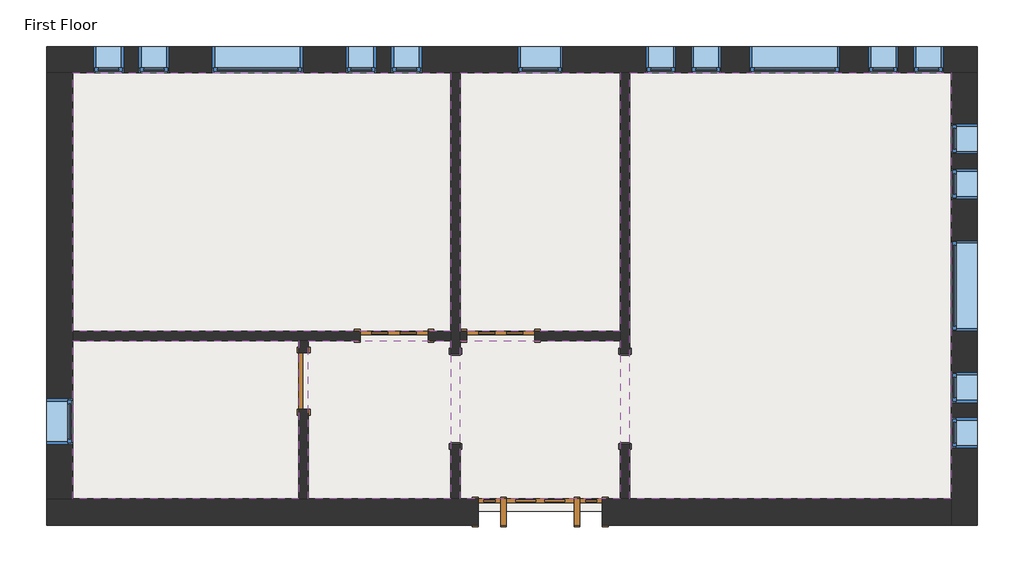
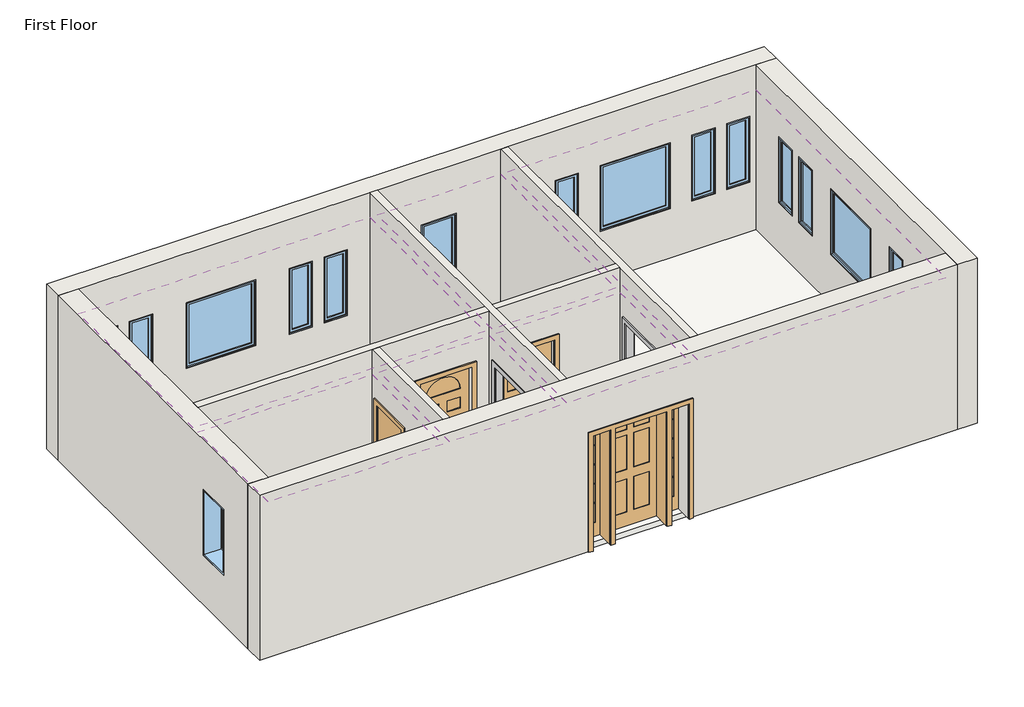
# One storey: 17 windows, 8 walls, 6 coverings, 4 doors, 2 proxies, 1 slab.
"""IFC4 building model written with IfcOpenShell, lengths in millimetres."""

from ifc_helpers import new_model, si_unit, frame, origin, place, context, project, spatial, polyline, outline, extrude, faceted_brep, transform, mapped, element, save
from components import proxy_f44482cc, door_829da954, door_2e3b4da2, door_4d6c7550, door_ffdb1193, window_da97879f, window_d61ef850, window_60baf983, window_6eb97611

model = new_model("IFC4")

# Units and contexts
model_context = context("Model", 3, world=origin())
ifc_project = project(units=[si_unit("LENGTHUNIT", "METRE", prefix="MILLI")], contexts=[model_context])

# Site, building, storey
site = spatial("IfcSite", under=ifc_project)
building = spatial("IfcBuilding", under=site)
storey = spatial("IfcBuildingStorey", under=building, Name="First Floor", Elevation=0.0)

# Proxies
placement = place(None, origin())
proxy_shape = proxy_f44482cc(model_context)
element("IfcBuildingElementProxy", 1, Name="Passage Opening-Cased : 48\" x 84\"", ObjectType="Passage Opening-Cased : 48\" x 84\"", at=placement, inside=storey, context=model_context, shape_type="MappedRepresentation", body=[
    mapped(proxy_shape, transform((3208.4428612, 1537.2944757, 0.0), x_axis=(0.0, 1.0, 0.0), y_axis=(-1.0, 0.0, 0.0), z_axis=(0.0, 0.0, 1.0))),
])
element("IfcBuildingElementProxy", 2, Name="Passage Opening-Cased : 48\" x 84\"", ObjectType="Passage Opening-Cased : 48\" x 84\"", at=placement, inside=storey, context=model_context, shape_type="MappedRepresentation", body=[
    mapped(proxy_shape, transform((922.4428612, 1537.2944757, 0.0), x_axis=(0.0, 1.0, 0.0), y_axis=(-1.0, 0.0, 0.0), z_axis=(0.0, 0.0, 1.0))),
])

# Coverings
element("IfcCovering", 3, ObjectType="GWB on Mtl. Stud", at=placement, inside=storey, context=model_context, shape_type="SweptSolid", body=[
    extrude(outline(polyline([(-4235.3446388, 5924.893319), (858.9428612, 5924.893319), (858.9428612, 2441.918319), (-4235.3446388, 2441.918319), (-4235.3446388, 5924.893319)])), frame((0.0, 0.0, 2590.8), z_axis=(0.0, 0.0, 1.0), x_axis=(1.0, 0.0, 0.0)), (0.0, 0.0, 1.0), 107.95),
])
element("IfcCovering", 4, ObjectType="GWB on Mtl. Stud", at=placement, inside=storey, context=model_context, shape_type="SweptSolid", body=[
    extrude(outline(polyline([(-1187.3446388, 2314.918319), (-1187.3446388, 181.318319), (-4235.3446388, 181.318319), (-4235.3446388, 2314.918319), (-1187.3446388, 2314.918319)])), frame((0.0, 0.0, 2590.8), z_axis=(0.0, 0.0, 1.0), x_axis=(1.0, 0.0, 0.0)), (0.0, 0.0, 1.0), 107.95),
])
element("IfcCovering", 5, ObjectType="GWB on Mtl. Stud", at=placement, inside=storey, context=model_context, shape_type="SweptSolid", body=[
    extrude(outline(polyline([(858.9428612, 181.318319), (-1060.3446388, 181.318319), (-1060.3446388, 2314.918319), (858.9428612, 2314.918319), (858.9428612, 181.318319)])), frame((0.0, 0.0, 2590.8), z_axis=(0.0, 0.0, 1.0), x_axis=(1.0, 0.0, 0.0)), (0.0, 0.0, 1.0), 107.95),
])
element("IfcCovering", 6, ObjectType="GWB on Mtl. Stud", at=placement, inside=storey, context=model_context, shape_type="SweptSolid", body=[
    extrude(outline(polyline([(3144.9428612, 181.318319), (985.9428612, 181.318319), (985.9428612, 2314.918319), (3144.9428612, 2314.918319), (3144.9428612, 181.318319)])), frame((0.0, 0.0, 2590.8), z_axis=(0.0, 0.0, 1.0), x_axis=(1.0, 0.0, 0.0)), (0.0, 0.0, 1.0), 107.95),
])
element("IfcCovering", 7, ObjectType="GWB on Mtl. Stud", at=placement, inside=storey, context=model_context, shape_type="SweptSolid", body=[
    extrude(outline(polyline([(985.9428612, 2441.918319), (985.9428612, 5924.893319), (3144.9428612, 5924.893319), (3144.9428612, 2441.918319), (985.9428612, 2441.918319)])), frame((0.0, 0.0, 2590.8), z_axis=(0.0, 0.0, 1.0), x_axis=(1.0, 0.0, 0.0)), (0.0, 0.0, 1.0), 107.95),
])
element("IfcCovering", 8, ObjectType="GWB on Mtl. Stud", at=placement, inside=storey, context=model_context, shape_type="SweptSolid", body=[
    extrude(outline(polyline([(3271.9428612, 181.318319), (3271.9428612, 5924.893319), (7604.2303612, 5924.893319), (7604.2303612, 181.318319), (3271.9428612, 181.318319)])), frame((0.0, 0.0, 2590.8), z_axis=(0.0, 0.0, 1.0), x_axis=(1.0, 0.0, 0.0)), (0.0, 0.0, 1.0), 107.95),
])

# Doors
door_shape = door_829da954(model_context)
element("IfcDoor", 9, ObjectType="Single-Decorative 2 : 36\" x 84\"", at=placement, inside=storey, context=model_context, shape_type="MappedRepresentation", body=[
    mapped(door_shape, transform((1532.0428612, 2378.418319, 0.0), x_axis=(-1.0, 0.0, 0.0), y_axis=(0.0, -1.0, 0.0), z_axis=(0.0, 0.0, 1.0))),
])
door_2_shape = door_2e3b4da2(model_context)
element("IfcDoor", 10, ObjectType="Single-Decorative 2 : 36\" x 84\"", at=placement, inside=storey, context=model_context, shape_type="MappedRepresentation", body=[
    mapped(door_2_shape, transform((95.3553612, 2378.418319, 0.0), x_axis=(1.0, 0.0, 0.0), y_axis=(0.0, 1.0, 0.0), z_axis=(0.0, 0.0, 1.0))),
])
door_3_shape = door_4d6c7550(model_context)
element("IfcDoor", 11, ObjectType="Single-Flush : 30\" x 84\"", at=placement, inside=storey, context=model_context, shape_type="MappedRepresentation", body=[
    mapped(door_3_shape, transform((-1123.8446388, 1768.818319, 0.0), x_axis=(0.0, 1.0, 0.0), y_axis=(-1.0, 0.0, 0.0), z_axis=(0.0, 0.0, 1.0))),
])
door_4_shape = door_ffdb1193(model_context)
element("IfcDoor", 12, ObjectType="Single-Raised Panel with Sidelights : 36\" x 84\"", at=placement, inside=storey, context=model_context, shape_type="MappedRepresentation", body=[
    mapped(door_4_shape, transform((2065.4428612, 5.105819, 0.0), x_axis=(1.0, 0.0, 0.0), y_axis=(0.0, 1.0, 0.0), z_axis=(0.0, 0.0, 1.0))),
])

# Slab
element("IfcSlab", 13, ObjectType="LW Concrete on Metal Deck", at=placement, inside=storey, context=model_context, shape_type="SweptSolid", body=[
    extrude(outline(polyline([(7769.3303612, 6089.993319), (7769.3303612, 16.218319), (-4400.4446388, 16.218319), (-4400.4446388, 6089.993319), (7769.3303612, 6089.993319)])), frame((0.0, 0.0, -104.775), z_axis=(0.0, 0.0, 1.0), x_axis=(1.0, 0.0, 0.0)), (0.0, 0.0, 1.0), 104.775),
])

# Walls
element("IfcWall", 14, ObjectType="Exterior - Brick on Mtl. Stud", at=placement, inside=storey, context=model_context, shape_type="Brep", body=[
    faceted_brep([(-4587.7696388, 5924.893319, 0.0), (-4400.4446388, 5924.893319, 0.0), (-4235.3446388, 5924.893319, 0.0), (858.9428612, 5924.893319, 0.0), (985.9428612, 5924.893319, 0.0), (3144.9428612, 5924.893319, 0.0), (3271.9428612, 5924.893319, 0.0), (7604.2303612, 5924.893319, 0.0), (7769.3303612, 5924.893319, 0.0), (7956.6553612, 5924.893319, 0.0), (7956.6553612, 5924.893319, 3048.0), (7604.2303612, 5924.893319, 3048.0), (3271.9428612, 5924.893319, 3048.0), (3144.9428612, 5924.893319, 3048.0), (985.9428612, 5924.893319, 3048.0), (858.9428612, 5924.893319, 3048.0), (-4235.3446388, 5924.893319, 3048.0), (-4587.7696388, 5924.893319, 3048.0), (1760.6428612, 5924.893319, 2133.6), (2370.2428612, 5924.893319, 2133.6), (2370.2428612, 5924.893319, 914.4), (1760.6428612, 5924.893319, 914.4), (-2354.1571388, 5924.893319, 2133.6), (-1134.9571388, 5924.893319, 2133.6), (-1134.9571388, 5924.893319, 914.4), (-2354.1571388, 5924.893319, 914.4), (4884.8428612, 5924.893319, 2133.6), (6104.0428612, 5924.893319, 2133.6), (6104.0428612, 5924.893319, 914.4), (4884.8428612, 5924.893319, 914.4), (-3954.3571388, 5924.893319, 2133.6), (-3547.9571388, 5924.893319, 2133.6), (-3547.9571388, 5924.893319, 914.4), (-3954.3571388, 5924.893319, 914.4), (-3344.7571388, 5924.893319, 2133.6), (-2938.3571388, 5924.893319, 2133.6), (-2938.3571388, 5924.893319, 914.4), (-3344.7571388, 5924.893319, 914.4), (-144.3571388, 5924.893319, 2133.6), (-144.3571388, 5924.893319, 914.4), (-550.7571388, 5924.893319, 914.4), (-550.7571388, 5924.893319, 2133.6), (465.2428612, 5924.893319, 2133.6), (465.2428612, 5924.893319, 914.4), (58.8428612, 5924.893319, 914.4), (58.8428612, 5924.893319, 2133.6), (4097.4428612, 5924.893319, 2133.6), (4503.8428612, 5924.893319, 2133.6), (4503.8428612, 5924.893319, 914.4), (4097.4428612, 5924.893319, 914.4), (3487.8428612, 5924.893319, 2133.6), (3894.2428612, 5924.893319, 2133.6), (3894.2428612, 5924.893319, 914.4), (3487.8428612, 5924.893319, 914.4), (7094.6428612, 5924.893319, 2133.6), (7501.0428612, 5924.893319, 2133.6), (7501.0428612, 5924.893319, 914.4), (7094.6428612, 5924.893319, 914.4), (6485.0428612, 5924.893319, 2133.6), (6891.4428612, 5924.893319, 2133.6), (6891.4428612, 5924.893319, 914.4), (6485.0428612, 5924.893319, 914.4), (-4587.7696388, 6277.318319, 0.0), (-4587.7696388, 6277.318319, 3048.0), (7956.6553612, 6277.318319, 3048.0), (7956.6553612, 6277.318319, 0.0), (7769.3303612, 6277.318319, 0.0), (-4400.4446388, 6277.318319, 0.0), (1760.6428612, 6277.318319, 2133.6), (1760.6428612, 6277.318319, 914.4), (2370.2428612, 6277.318319, 914.4), (2370.2428612, 6277.318319, 2133.6), (-2354.1571388, 6277.318319, 2133.6), (-2354.1571388, 6277.318319, 914.4), (-1134.9571388, 6277.318319, 914.4), (-1134.9571388, 6277.318319, 2133.6), (4884.8428612, 6277.318319, 2133.6), (4884.8428612, 6277.318319, 914.4), (6104.0428612, 6277.318319, 914.4), (6104.0428612, 6277.318319, 2133.6), (-3954.3571388, 6277.318319, 2133.6), (-3954.3571388, 6277.318319, 914.4), (-3547.9571388, 6277.318319, 914.4), (-3547.9571388, 6277.318319, 2133.6), (-3344.7571388, 6277.318319, 2133.6), (-3344.7571388, 6277.318319, 914.4), (-2938.3571388, 6277.318319, 914.4), (-2938.3571388, 6277.318319, 2133.6), (-144.3571388, 6277.318319, 2133.6), (-550.7571388, 6277.318319, 2133.6), (-550.7571388, 6277.318319, 914.4), (-144.3571388, 6277.318319, 914.4), (465.2428612, 6277.318319, 2133.6), (58.8428612, 6277.318319, 2133.6), (58.8428612, 6277.318319, 914.4), (465.2428612, 6277.318319, 914.4), (4097.4428612, 6277.318319, 2133.6), (4097.4428612, 6277.318319, 914.4), (4503.8428612, 6277.318319, 914.4), (4503.8428612, 6277.318319, 2133.6), (3487.8428612, 6277.318319, 2133.6), (3487.8428612, 6277.318319, 914.4), (3894.2428612, 6277.318319, 914.4), (3894.2428612, 6277.318319, 2133.6), (7094.6428612, 6277.318319, 2133.6), (7094.6428612, 6277.318319, 914.4), (7501.0428612, 6277.318319, 914.4), (7501.0428612, 6277.318319, 2133.6), (6485.0428612, 6277.318319, 2133.6), (6485.0428612, 6277.318319, 914.4), (6891.4428612, 6277.318319, 914.4), (6891.4428612, 6277.318319, 2133.6), (7956.6553612, 6089.993319, 0.0), (-4587.7696388, 6089.993319, 0.0), (-4400.4446388, 6089.993319, 0.0), (7769.3303612, 6089.993319, 0.0)], [[[0, 1, 2, 3, 4, 5, 6, 7, 8, 9, 10, 11, 12, 13, 14, 15, 16, 17], [18, 19, 20, 21], [22, 23, 24, 25], [26, 27, 28, 29], [30, 31, 32, 33], [34, 35, 36, 37], [38, 39, 40, 41], [42, 43, 44, 45], [46, 47, 48, 49], [50, 51, 52, 53], [54, 55, 56, 57], [58, 59, 60, 61]], [[62, 63, 64, 65, 66, 67], [68, 69, 70, 71], [72, 73, 74, 75], [76, 77, 78, 79], [80, 81, 82, 83], [84, 85, 86, 87], [88, 89, 90, 91], [92, 93, 94, 95], [96, 97, 98, 99], [100, 101, 102, 103], [104, 105, 106, 107], [108, 109, 110, 111]], [[17, 16, 15, 14, 13, 12, 11, 10, 64, 63]], [[10, 9, 112, 65, 64]], [[0, 17, 63, 62, 113]], [[69, 68, 18, 21]], [[70, 69, 21, 20]], [[71, 70, 20, 19]], [[68, 71, 19, 18]], [[73, 72, 22, 25]], [[74, 73, 25, 24]], [[75, 74, 24, 23]], [[72, 75, 23, 22]], [[77, 76, 26, 29]], [[78, 77, 29, 28]], [[79, 78, 28, 27]], [[76, 79, 27, 26]], [[81, 80, 30, 33]], [[82, 81, 33, 32]], [[83, 82, 32, 31]], [[80, 83, 31, 30]], [[85, 84, 34, 37]], [[86, 85, 37, 36]], [[87, 86, 36, 35]], [[84, 87, 35, 34]], [[39, 38, 88, 91]], [[40, 39, 91, 90]], [[41, 40, 90, 89]], [[38, 41, 89, 88]], [[43, 42, 92, 95]], [[44, 43, 95, 94]], [[45, 44, 94, 93]], [[42, 45, 93, 92]], [[97, 96, 46, 49]], [[98, 97, 49, 48]], [[99, 98, 48, 47]], [[96, 99, 47, 46]], [[101, 100, 50, 53]], [[102, 101, 53, 52]], [[103, 102, 52, 51]], [[100, 103, 51, 50]], [[105, 104, 54, 57]], [[106, 105, 57, 56]], [[107, 106, 56, 55]], [[104, 107, 55, 54]], [[109, 108, 58, 61]], [[110, 109, 61, 60]], [[111, 110, 60, 59]], [[108, 111, 59, 58]], [[1, 0, 113, 114]], [[113, 62, 67, 114]], [[9, 8, 115, 112]], [[67, 66, 115, 114]], [[66, 65, 112, 115]], [[8, 7, 6, 5, 4, 3, 2, 1, 114, 115]]]),
])
element("IfcWall", 15, ObjectType="Exterior - Brick on Mtl. Stud", at=placement, inside=storey, context=model_context, shape_type="Brep", body=[
    faceted_brep([(7604.2303612, 5924.893319, 0.0), (7604.2303612, 181.318319, 0.0), (7604.2303612, 16.218319, 0.0), (7604.2303612, -171.106681, 0.0), (7604.2303612, -171.106681, 3048.0), (7604.2303612, 181.318319, 3048.0), (7604.2303612, 5924.893319, 3048.0), (7604.2303612, 3662.705819, 2133.6), (7604.2303612, 2443.505819, 2133.6), (7604.2303612, 2443.505819, 914.4), (7604.2303612, 3662.705819, 914.4), (7604.2303612, 4627.905819, 2133.6), (7604.2303612, 4221.505819, 2133.6), (7604.2303612, 4221.505819, 914.4), (7604.2303612, 4627.905819, 914.4), (7604.2303612, 5237.505819, 2133.6), (7604.2303612, 4831.105819, 2133.6), (7604.2303612, 4831.105819, 914.4), (7604.2303612, 5237.505819, 914.4), (7604.2303612, 1275.105819, 2133.6), (7604.2303612, 868.705819, 2133.6), (7604.2303612, 868.705819, 914.4), (7604.2303612, 1275.105819, 914.4), (7604.2303612, 1884.705819, 2133.6), (7604.2303612, 1478.305819, 2133.6), (7604.2303612, 1478.305819, 914.4), (7604.2303612, 1884.705819, 914.4), (7956.6553612, 5924.893319, 0.0), (7956.6553612, 5924.893319, 3048.0), (7956.6553612, -171.106681, 3048.0), (7956.6553612, -171.106681, 0.0), (7956.6553612, 16.218319, 0.0), (7956.6553612, 3662.705819, 2133.6), (7956.6553612, 3662.705819, 914.4), (7956.6553612, 2443.505819, 914.4), (7956.6553612, 2443.505819, 2133.6), (7956.6553612, 4627.905819, 2133.6), (7956.6553612, 4627.905819, 914.4), (7956.6553612, 4221.505819, 914.4), (7956.6553612, 4221.505819, 2133.6), (7956.6553612, 5237.505819, 2133.6), (7956.6553612, 5237.505819, 914.4), (7956.6553612, 4831.105819, 914.4), (7956.6553612, 4831.105819, 2133.6), (7956.6553612, 1275.105819, 2133.6), (7956.6553612, 1275.105819, 914.4), (7956.6553612, 868.705819, 914.4), (7956.6553612, 868.705819, 2133.6), (7956.6553612, 1884.705819, 2133.6), (7956.6553612, 1884.705819, 914.4), (7956.6553612, 1478.305819, 914.4), (7956.6553612, 1478.305819, 2133.6), (7769.3303612, 5924.893319, 0.0), (7769.3303612, -171.106681, 0.0), (7769.3303612, 16.218319, 0.0)], [[[0, 1, 2, 3, 4, 5, 6], [7, 8, 9, 10], [11, 12, 13, 14], [15, 16, 17, 18], [19, 20, 21, 22], [23, 24, 25, 26]], [[27, 28, 29, 30, 31], [32, 33, 34, 35], [36, 37, 38, 39], [40, 41, 42, 43], [44, 45, 46, 47], [48, 49, 50, 51]], [[6, 5, 4, 29, 28]], [[0, 6, 28, 27, 52]], [[4, 3, 53, 30, 29]], [[33, 32, 7, 10]], [[34, 33, 10, 9]], [[35, 34, 9, 8]], [[32, 35, 8, 7]], [[37, 36, 11, 14]], [[38, 37, 14, 13]], [[39, 38, 13, 12]], [[36, 39, 12, 11]], [[41, 40, 15, 18]], [[42, 41, 18, 17]], [[43, 42, 17, 16]], [[40, 43, 16, 15]], [[45, 44, 19, 22]], [[46, 45, 22, 21]], [[47, 46, 21, 20]], [[44, 47, 20, 19]], [[49, 48, 23, 26]], [[50, 49, 26, 25]], [[51, 50, 25, 24]], [[48, 51, 24, 23]], [[52, 27, 31, 54]], [[3, 2, 54, 53]], [[54, 31, 30, 53]], [[2, 1, 0, 52, 54]]]),
])
element("IfcWall", 16, ObjectType="Exterior - Brick on Mtl. Stud", at=placement, inside=storey, context=model_context, shape_type="Brep", body=[
    faceted_brep([(7604.2303612, 181.318319, 0.0), (3271.9428612, 181.318319, 0.0), (3144.9428612, 181.318319, 0.0), (2903.6428612, 181.318319, 0.0), (2903.6428612, 181.318319, 2133.6), (1227.2428612, 181.318319, 2133.6), (1227.2428612, 181.318319, 0.0), (985.9428612, 181.318319, 0.0), (858.9428612, 181.318319, 0.0), (-1060.3446388, 181.318319, 0.0), (-1187.3446388, 181.318319, 0.0), (-4235.3446388, 181.318319, 0.0), (-4587.7696388, 181.318319, 0.0), (-4587.7696388, 181.318319, 3048.0), (-4235.3446388, 181.318319, 3048.0), (-1187.3446388, 181.318319, 3048.0), (-1060.3446388, 181.318319, 3048.0), (858.9428612, 181.318319, 3048.0), (985.9428612, 181.318319, 3048.0), (3144.9428612, 181.318319, 3048.0), (3271.9428612, 181.318319, 3048.0), (7604.2303612, 181.318319, 3048.0), (2903.6428612, -171.106681, 2133.6), (2903.6428612, -171.106681, 0.0), (7604.2303612, -171.106681, 0.0), (7604.2303612, -171.106681, 3048.0), (-4587.7696388, -171.106681, 3048.0), (-4587.7696388, -171.106681, 0.0), (1227.2428612, -171.106681, 0.0), (1227.2428612, -171.106681, 2133.6)], [[[0, 1, 2, 3, 4, 5, 6, 7, 8, 9, 10, 11, 12, 13, 14, 15, 16, 17, 18, 19, 20, 21]], [[22, 23, 24, 25, 26, 27, 28, 29]], [[28, 27, 12, 11, 10, 9, 8, 7, 6]], [[24, 23, 3, 2, 1, 0]], [[21, 20, 19, 18, 17, 16, 15, 14, 13, 26, 25]], [[0, 21, 25, 24]], [[13, 12, 27, 26]], [[4, 3, 23, 22]], [[5, 4, 22, 29]], [[6, 5, 29, 28]]]),
])
element("IfcWall", 17, ObjectType="Exterior - Brick on Mtl. Stud", at=placement, inside=storey, context=model_context, shape_type="Brep", body=[
    faceted_brep([(-4235.3446388, 181.318319, 0.0), (-4235.3446388, 2314.918319, 0.0), (-4235.3446388, 2441.918319, 0.0), (-4235.3446388, 5924.893319, 0.0), (-4235.3446388, 5924.893319, 3048.0), (-4235.3446388, 2441.918319, 3048.0), (-4235.3446388, 2314.918319, 3048.0), (-4235.3446388, 181.318319, 3048.0), (-4235.3446388, 919.505819, 2133.6), (-4235.3446388, 1529.105819, 2133.6), (-4235.3446388, 1529.105819, 914.4), (-4235.3446388, 919.505819, 914.4), (-4587.7696388, 181.318319, 0.0), (-4587.7696388, 181.318319, 3048.0), (-4587.7696388, 5924.893319, 3048.0), (-4587.7696388, 5924.893319, 0.0), (-4587.7696388, 919.505819, 2133.6), (-4587.7696388, 919.505819, 914.4), (-4587.7696388, 1529.105819, 914.4), (-4587.7696388, 1529.105819, 2133.6), (-4400.4446388, 181.318319, 0.0), (-4400.4446388, 5924.893319, 0.0)], [[[0, 1, 2, 3, 4, 5, 6, 7], [8, 9, 10, 11]], [[12, 13, 14, 15], [16, 17, 18, 19]], [[7, 6, 5, 4, 14, 13]], [[0, 7, 13, 12, 20]], [[4, 3, 21, 15, 14]], [[17, 16, 8, 11]], [[18, 17, 11, 10]], [[19, 18, 10, 9]], [[16, 19, 9, 8]], [[20, 12, 15, 21]], [[3, 2, 1, 0, 20, 21]]]),
])
element("IfcWall", 18, ObjectType="Interior - 5\" Partition (2-hr)", at=placement, inside=storey, context=model_context, shape_type="Brep", body=[
    faceted_brep([(3144.9428612, 5924.893319, 0.0), (3144.9428612, 2441.918319, 0.0), (3144.9428612, 2314.918319, 0.0), (3144.9428612, 2138.705819, 0.0), (3144.9428612, 2138.705819, 2133.6), (3144.9428612, 919.505819, 2133.6), (3144.9428612, 919.505819, 0.0), (3144.9428612, 181.318319, 0.0), (3144.9428612, 181.318319, 3048.0), (3144.9428612, 2314.918319, 3048.0), (3144.9428612, 2441.918319, 3048.0), (3144.9428612, 5924.893319, 3048.0), (3271.9428612, 2138.705819, 2133.6), (3271.9428612, 2138.705819, 0.0), (3271.9428612, 5924.893319, 0.0), (3271.9428612, 5924.893319, 3048.0), (3271.9428612, 181.318319, 3048.0), (3271.9428612, 181.318319, 0.0), (3271.9428612, 919.505819, 0.0), (3271.9428612, 919.505819, 2133.6)], [[[0, 1, 2, 3, 4, 5, 6, 7, 8, 9, 10, 11]], [[12, 13, 14, 15, 16, 17, 18, 19]], [[18, 17, 7, 6]], [[14, 13, 3, 2, 1, 0]], [[11, 10, 9, 8, 16, 15]], [[0, 11, 15, 14]], [[8, 7, 17, 16]], [[6, 5, 19, 18]], [[4, 3, 13, 12]], [[5, 4, 12, 19]]]),
])
element("IfcWall", 19, ObjectType="Interior - 5\" Partition (2-hr)", at=placement, inside=storey, context=model_context, shape_type="Brep", body=[
    faceted_brep([(858.9428612, 5924.893319, 0.0), (858.9428612, 2441.918319, 0.0), (858.9428612, 2314.918319, 0.0), (858.9428612, 2138.705819, 0.0), (858.9428612, 2138.705819, 2133.6), (858.9428612, 919.505819, 2133.6), (858.9428612, 919.505819, 0.0), (858.9428612, 181.318319, 0.0), (858.9428612, 181.318319, 3048.0), (858.9428612, 2314.918319, 3048.0), (858.9428612, 2441.918319, 3048.0), (858.9428612, 5924.893319, 3048.0), (985.9428612, 2138.705819, 2133.6), (985.9428612, 2138.705819, 0.0), (985.9428612, 2314.918319, 0.0), (985.9428612, 2441.918319, 0.0), (985.9428612, 5924.893319, 0.0), (985.9428612, 5924.893319, 3048.0), (985.9428612, 2441.918319, 3048.0), (985.9428612, 2314.918319, 3048.0), (985.9428612, 181.318319, 3048.0), (985.9428612, 181.318319, 0.0), (985.9428612, 919.505819, 0.0), (985.9428612, 919.505819, 2133.6)], [[[0, 1, 2, 3, 4, 5, 6, 7, 8, 9, 10, 11]], [[12, 13, 14, 15, 16, 17, 18, 19, 20, 21, 22, 23]], [[22, 21, 7, 6]], [[16, 15, 14, 13, 3, 2, 1, 0]], [[11, 10, 9, 8, 20, 19, 18, 17]], [[0, 11, 17, 16]], [[8, 7, 21, 20]], [[6, 5, 23, 22]], [[4, 3, 13, 12]], [[5, 4, 12, 23]]]),
])
element("IfcWall", 20, ObjectType="Interior - 5\" Partition (2-hr)", at=placement, inside=storey, context=model_context, shape_type="Brep", body=[
    faceted_brep([(-4235.3446388, 2314.918319, 3048.0), (-4235.3446388, 2314.918319, 0.0), (-1187.3446388, 2314.918319, 0.0), (-1060.3446388, 2314.918319, 0.0), (-361.8446388, 2314.918319, 0.0), (-361.8446388, 2314.918319, 2133.6), (552.5553612, 2314.918319, 2133.6), (552.5553612, 2314.918319, 0.0), (858.9428612, 2314.918319, 0.0), (858.9428612, 2314.918319, 3048.0), (-1060.3446388, 2314.918319, 3048.0), (-1187.3446388, 2314.918319, 3048.0), (-4235.3446388, 2441.918319, 0.0), (-4235.3446388, 2441.918319, 3048.0), (858.9428612, 2441.918319, 3048.0), (858.9428612, 2441.918319, 0.0), (552.5553612, 2441.918319, 0.0), (552.5553612, 2441.918319, 2133.6), (-361.8446388, 2441.918319, 2133.6), (-361.8446388, 2441.918319, 0.0)], [[[0, 1, 2, 3, 4, 5, 6, 7, 8, 9, 10, 11]], [[12, 13, 14, 15, 16, 17, 18, 19]], [[1, 12, 19, 4, 3, 2]], [[7, 16, 15, 8]], [[13, 0, 11, 10, 9, 14]], [[1, 0, 13, 12]], [[9, 8, 15, 14]], [[17, 16, 7, 6]], [[18, 17, 6, 5]], [[19, 18, 5, 4]]]),
    faceted_brep([(3144.9428612, 2314.918319, 0.0), (3144.9428612, 2314.918319, 3048.0), (985.9428612, 2314.918319, 3048.0), (985.9428612, 2314.918319, 0.0), (1074.8428612, 2314.918319, 0.0), (1074.8428612, 2314.918319, 2133.6), (1989.2428612, 2314.918319, 2133.6), (1989.2428612, 2314.918319, 0.0), (3144.9428612, 2441.918319, 3048.0), (3144.9428612, 2441.918319, 0.0), (1989.2428612, 2441.918319, 0.0), (1989.2428612, 2441.918319, 2133.6), (1074.8428612, 2441.918319, 2133.6), (1074.8428612, 2441.918319, 0.0), (985.9428612, 2441.918319, 0.0), (985.9428612, 2441.918319, 3048.0)], [[[0, 1, 2, 3, 4, 5, 6, 7]], [[8, 9, 10, 11, 12, 13, 14, 15]], [[9, 0, 7, 10]], [[13, 4, 3, 14]], [[1, 8, 15, 2]], [[1, 0, 9, 8]], [[3, 2, 15, 14]], [[5, 4, 13, 12]], [[6, 5, 12, 11]], [[7, 6, 11, 10]]]),
])
element("IfcWall", 21, ObjectType="Interior - 5\" Partition (2-hr)", at=placement, inside=storey, context=model_context, shape_type="SweptSolid", body=[
    extrude(outline(polyline([(2314.918319, 0.0), (2149.818319, 0.0), (2149.818319, 2133.6), (1387.818319, 2133.6), (1387.818319, 0.0), (181.318319, 0.0), (181.318319, 3048.0), (2314.918319, 3048.0), (2314.918319, 0.0)])), frame((-1187.3446388, 0.0, 0.0), z_axis=(1.0, 0.0, 0.0), x_axis=(0.0, 1.0, 0.0)), (0.0, 0.0, 1.0), 127.0),
])

# Windows
window_shape = window_da97879f(model_context)
element("IfcWindow", 22, ObjectType="Fixed : 16\" x 48\"", at=placement, inside=storey, context=model_context, shape_type="MappedRepresentation", body=[
    mapped(window_shape, transform((-3789.2571388, 6101.105819, 0.0), x_axis=(-1.0, 0.0, 0.0), y_axis=(0.0, -1.0, 0.0), z_axis=(0.0, 0.0, 1.0))),
])
element("IfcWindow", 23, ObjectType="Fixed : 16\" x 48\"", at=placement, inside=storey, context=model_context, shape_type="MappedRepresentation", body=[
    mapped(window_shape, transform((-3179.6571388, 6101.105819, 0.0), x_axis=(-1.0, 0.0, 0.0), y_axis=(0.0, -1.0, 0.0), z_axis=(0.0, 0.0, 1.0))),
])
element("IfcWindow", 24, ObjectType="Fixed : 16\" x 48\"", at=placement, inside=storey, context=model_context, shape_type="MappedRepresentation", body=[
    mapped(window_shape, transform((3652.9428612, 6101.105819, 0.0), x_axis=(-1.0, 0.0, 0.0), y_axis=(0.0, -1.0, 0.0), z_axis=(0.0, 0.0, 1.0))),
])
element("IfcWindow", 25, ObjectType="Fixed : 16\" x 48\"", at=placement, inside=storey, context=model_context, shape_type="MappedRepresentation", body=[
    mapped(window_shape, transform((4262.5428612, 6101.105819, 0.0), x_axis=(-1.0, 0.0, 0.0), y_axis=(0.0, -1.0, 0.0), z_axis=(0.0, 0.0, 1.0))),
])
element("IfcWindow", 26, ObjectType="Fixed : 16\" x 48\"", at=placement, inside=storey, context=model_context, shape_type="MappedRepresentation", body=[
    mapped(window_shape, transform((6650.1428612, 6101.105819, 0.0), x_axis=(-1.0, 0.0, 0.0), y_axis=(0.0, -1.0, 0.0), z_axis=(0.0, 0.0, 1.0))),
])
element("IfcWindow", 27, ObjectType="Fixed : 16\" x 48\"", at=placement, inside=storey, context=model_context, shape_type="MappedRepresentation", body=[
    mapped(window_shape, transform((7259.7428612, 6101.105819, 0.0), x_axis=(-1.0, 0.0, 0.0), y_axis=(0.0, -1.0, 0.0), z_axis=(0.0, 0.0, 1.0))),
])
element("IfcWindow", 28, ObjectType="Fixed : 16\" x 48\"", at=placement, inside=storey, context=model_context, shape_type="MappedRepresentation", body=[
    mapped(window_shape, transform((7780.4428612, 5072.405819, 0.0), x_axis=(0.0, 1.0, 0.0), y_axis=(-1.0, 0.0, 0.0), z_axis=(0.0, 0.0, 1.0))),
])
element("IfcWindow", 29, ObjectType="Fixed : 16\" x 48\"", at=placement, inside=storey, context=model_context, shape_type="MappedRepresentation", body=[
    mapped(window_shape, transform((7780.4428612, 4462.805819, 0.0), x_axis=(0.0, 1.0, 0.0), y_axis=(-1.0, 0.0, 0.0), z_axis=(0.0, 0.0, 1.0))),
])
element("IfcWindow", 30, ObjectType="Fixed : 16\" x 48\"", at=placement, inside=storey, context=model_context, shape_type="MappedRepresentation", body=[
    mapped(window_shape, transform((7780.4428612, 1719.605819, 0.0), x_axis=(0.0, 1.0, 0.0), y_axis=(-1.0, 0.0, 0.0), z_axis=(0.0, 0.0, 1.0))),
])
element("IfcWindow", 31, ObjectType="Fixed : 16\" x 48\"", at=placement, inside=storey, context=model_context, shape_type="MappedRepresentation", body=[
    mapped(window_shape, transform((7780.4428612, 1110.005819, 0.0), x_axis=(0.0, 1.0, 0.0), y_axis=(-1.0, 0.0, 0.0), z_axis=(0.0, 0.0, 1.0))),
])
window_2_shape = window_d61ef850(model_context)
element("IfcWindow", 32, ObjectType="Fixed : 16\" x 48\"", at=placement, inside=storey, context=model_context, shape_type="MappedRepresentation", body=[
    mapped(window_2_shape, transform((300.1428612, 6101.105819, 0.0), x_axis=(1.0, 0.0, 0.0), y_axis=(0.0, 1.0, 0.0), z_axis=(0.0, 0.0, 1.0))),
])
element("IfcWindow", 33, ObjectType="Fixed : 16\" x 48\"", at=placement, inside=storey, context=model_context, shape_type="MappedRepresentation", body=[
    mapped(window_2_shape, transform((-309.4571388, 6101.105819, 0.0), x_axis=(1.0, 0.0, 0.0), y_axis=(0.0, 1.0, 0.0), z_axis=(0.0, 0.0, 1.0))),
])
window_3_shape = window_60baf983(model_context)
element("IfcWindow", 34, ObjectType="Fixed : 24\" x 48\"", at=placement, inside=storey, context=model_context, shape_type="MappedRepresentation", body=[
    mapped(window_3_shape, transform((2027.3428612, 6101.105819, 0.0), x_axis=(-1.0, 0.0, 0.0), y_axis=(0.0, -1.0, 0.0), z_axis=(0.0, 0.0, 1.0))),
])
element("IfcWindow", 35, ObjectType="Fixed : 24\" x 48\"", at=placement, inside=storey, context=model_context, shape_type="MappedRepresentation", body=[
    mapped(window_3_shape, transform((-4411.5571388, 1186.205819, 0.0), x_axis=(0.0, -1.0, 0.0), y_axis=(1.0, 0.0, 0.0), z_axis=(0.0, 0.0, 1.0))),
])
window_4_shape = window_6eb97611(model_context)
element("IfcWindow", 36, ObjectType="Fixed : 48\" x 48\"", at=placement, inside=storey, context=model_context, shape_type="MappedRepresentation", body=[
    mapped(window_4_shape, transform((-1782.6571388, 6101.105819, 0.0), x_axis=(-1.0, 0.0, 0.0), y_axis=(0.0, -1.0, 0.0), z_axis=(0.0, 0.0, 1.0))),
])
element("IfcWindow", 37, ObjectType="Fixed : 48\" x 48\"", at=placement, inside=storey, context=model_context, shape_type="MappedRepresentation", body=[
    mapped(window_4_shape, transform((5456.3428612, 6101.105819, 0.0), x_axis=(-1.0, 0.0, 0.0), y_axis=(0.0, -1.0, 0.0), z_axis=(0.0, 0.0, 1.0))),
])
element("IfcWindow", 38, ObjectType="Fixed : 48\" x 48\"", at=placement, inside=storey, context=model_context, shape_type="MappedRepresentation", body=[
    mapped(window_4_shape, transform((7780.4428612, 3091.205819, 0.0), x_axis=(0.0, 1.0, 0.0), y_axis=(-1.0, 0.0, 0.0), z_axis=(0.0, 0.0, 1.0))),
])

save(model, "model.ifc")
